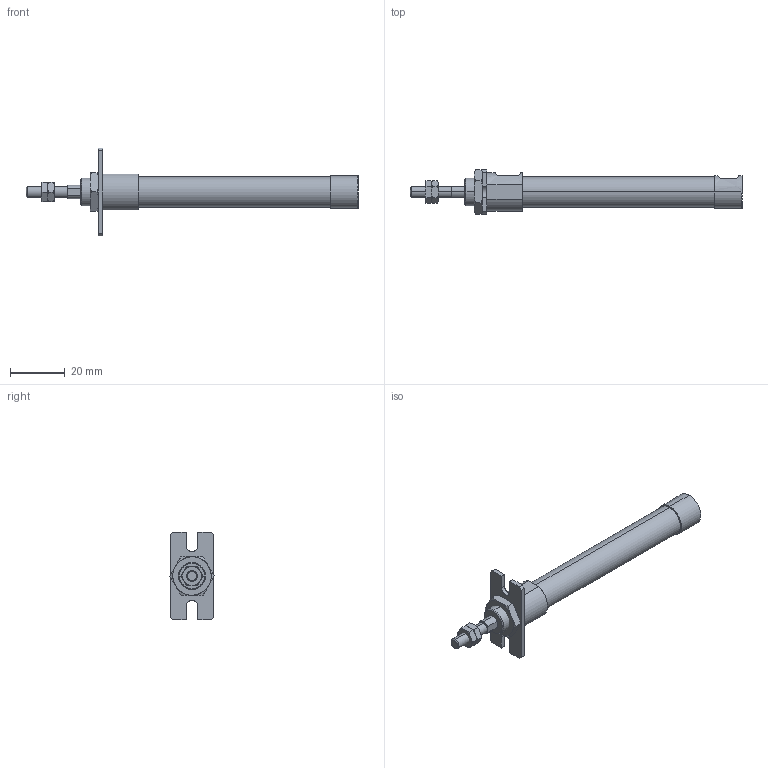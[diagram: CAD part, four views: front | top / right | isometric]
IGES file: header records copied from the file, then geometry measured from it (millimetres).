
Start section: SolidWorks IGES file using analytic representation for surfaces
Global section: file name: C:\Users\Toshiba\Desktop\ZGU2-10-45-A.IGS; native system: SolidWorks 2014; preprocessor: SolidWorks 2014; author: Toshiba; date: 160331.085303; units: millimetre
Bounding box: 121 x 16.16 x 32 mm (x, y, z)
Surface area: 6088.9 mm2 (no closed solid volume)
Topology: 0 solids, 0 shells, 129 faces, 1844 edges, 1840 vertices
Faces by surface type: bspline 93, revolution 36
